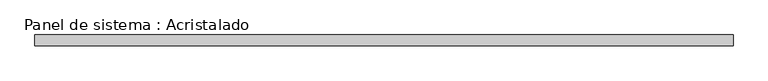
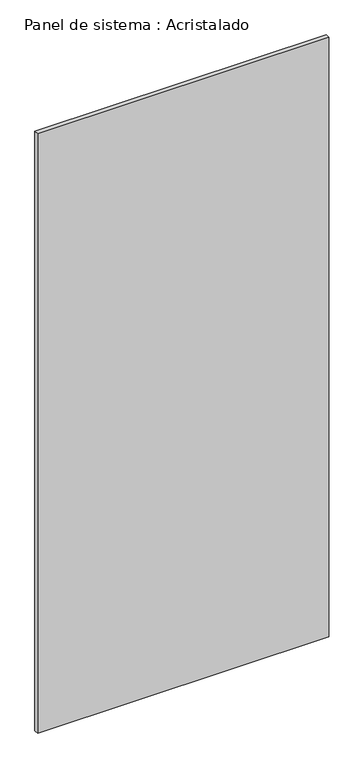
"""IFC4 building model written with IfcOpenShell, lengths in millimetres: plate geometry, Panel de sistema : Acristalado."""

from ifc_helpers import new_model, si_unit, origin, origin_with_axes, place, context, project, spatial, polyline, outline, extrude, source, transform, mapped, element, save


def panel_de_sistema_acristalado_3b98ec13(model_context):
    return source(origin(), model_context, "Body", "SweptSolid", [
        extrude(outline(polyline([(648.5862069, -10.0), (-648.5862069, -10.0), (-648.5862069, 10.0), (648.5862069, 10.0), (648.5862069, -10.0)])), origin_with_axes(), (0.0, 0.0, 1.0), 2820.0),
    ])


if __name__ == "__main__":
    model = new_model("IFC4")
    model_context = context("Model", 3, world=origin())
    ifc_project = project(units=[si_unit("LENGTHUNIT", "METRE", prefix="MILLI")], contexts=[model_context])
    site = spatial("IfcSite", under=ifc_project)
    building = spatial("IfcBuilding", under=site)
    placement = place(None, origin())
    panel_de_sistema_acristalado_shape = panel_de_sistema_acristalado_3b98ec13(model_context)
    element("IfcPlate", 1, ObjectType="Panel de sistema : Acristalado", at=placement, inside=building, context=model_context, shape_type="MappedRepresentation", body=[
        mapped(panel_de_sistema_acristalado_shape, transform((0.0, 0.0, 0.0), x_axis=(1.0, 0.0, 0.0), y_axis=(0.0, 1.0, 0.0), z_axis=(0.0, 0.0, 1.0))),
    ])
    save(model, "model.ifc")
